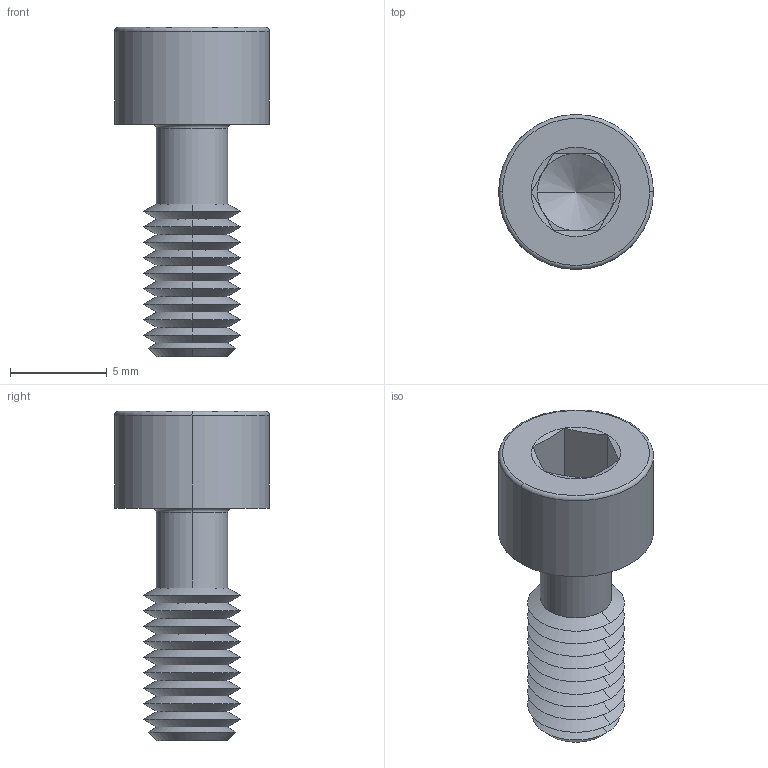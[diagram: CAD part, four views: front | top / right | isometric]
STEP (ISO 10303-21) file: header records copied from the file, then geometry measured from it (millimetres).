
FILE_DESCRIPTION (( 'STEP AP203' ), '1' );
FILE_NAME ('P0154.050-012-BL.step', '2024-06-17T11:26:11', ( '' ), ( '' ), 'SwSTEP 2.0', 'SolidWorks 2019', '' );
FILE_SCHEMA (( 'CONFIG_CONTROL_DESIGN' ));
Length unit declared in the file: millimetre
Products named in the file (1): P0154.050-012-BL
Bounding box: 8 x 8 x 17 mm (x, y, z)
Volume: 349.9 mm3; surface area: 536.3 mm2
Topology: 1 solids, 1 shells, 71 faces, 144 edges, 75 vertices
Faces by surface type: cone 48, plane 15, torus 4, cylinder 4
Entity records: 1887 total; most frequent: DIRECTION 352, CARTESIAN_POINT 315, ORIENTED_EDGE 284, AXIS2_PLACEMENT_3D 144, EDGE_CURVE 142, VERTEX_POINT 75, EDGE_LOOP 73, CIRCLE 72
